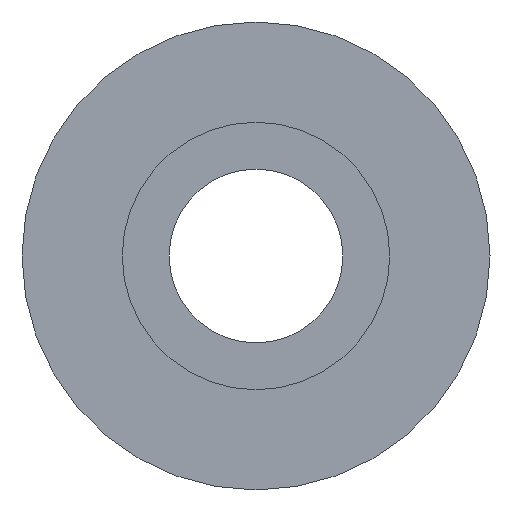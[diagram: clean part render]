
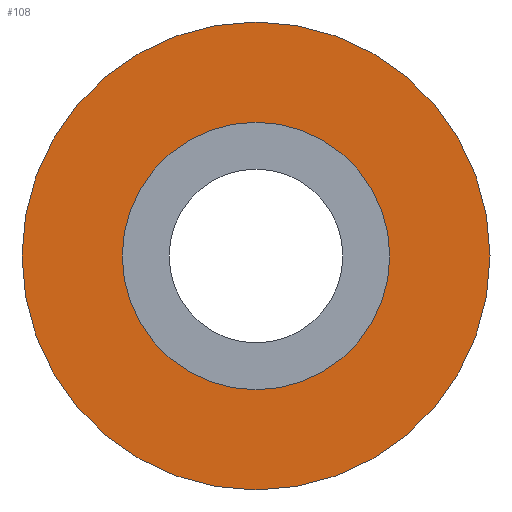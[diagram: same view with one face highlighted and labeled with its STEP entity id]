
A CAD part, left-side view. The second image highlights one B-rep face of the part: STEP entity #108.
In plain terms, the highlighted planar face has unit normal (-1, 0, 0).
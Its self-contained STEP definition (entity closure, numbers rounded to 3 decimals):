
#14=PLANE($,#127);
#24=FACE_BOUND($,#47,.T.);
#34=FACE_OUTER_BOUND($,#46,.T.);
#46=EDGE_LOOP($,(#91));
#47=EDGE_LOOP($,(#92));
#59=CIRCLE($,#125,0.508);
#61=CIRCLE($,#128,0.889);
#68=VERTEX_POINT($,#187);
#70=VERTEX_POINT($,#192);
#77=EDGE_CURVE($,#68,#68,#59,.T.);
#79=EDGE_CURVE($,#70,#70,#61,.T.);
#91=ORIENTED_EDGE($,*,*,#79,.F.);
#92=ORIENTED_EDGE($,*,*,#77,.T.);
#108=ADVANCED_FACE($,(#34,#24),#14,.T.);
#125=AXIS2_PLACEMENT_3D($,#188,#155,#156);
#127=AXIS2_PLACEMENT_3D($,#191,#159,#160);
#128=AXIS2_PLACEMENT_3D($,#193,#161,#162);
#155=DIRECTION('center_axis',(1.,0.,0.));
#156=DIRECTION('ref_axis',(0.,1.,0.));
#159=DIRECTION('center_axis',(-1.,0.,0.));
#160=DIRECTION('ref_axis',(0.,0.,1.));
#161=DIRECTION('center_axis',(1.,0.,0.));
#162=DIRECTION('ref_axis',(0.,1.,0.));
#187=CARTESIAN_POINT('',(2.08,0.508,0.));
#188=CARTESIAN_POINT('Origin',(2.08,0.,0.));
#191=CARTESIAN_POINT('Origin',(2.08,0.699,0.));
#192=CARTESIAN_POINT('',(2.08,0.889,0.));
#193=CARTESIAN_POINT('Origin',(2.08,0.,0.));
